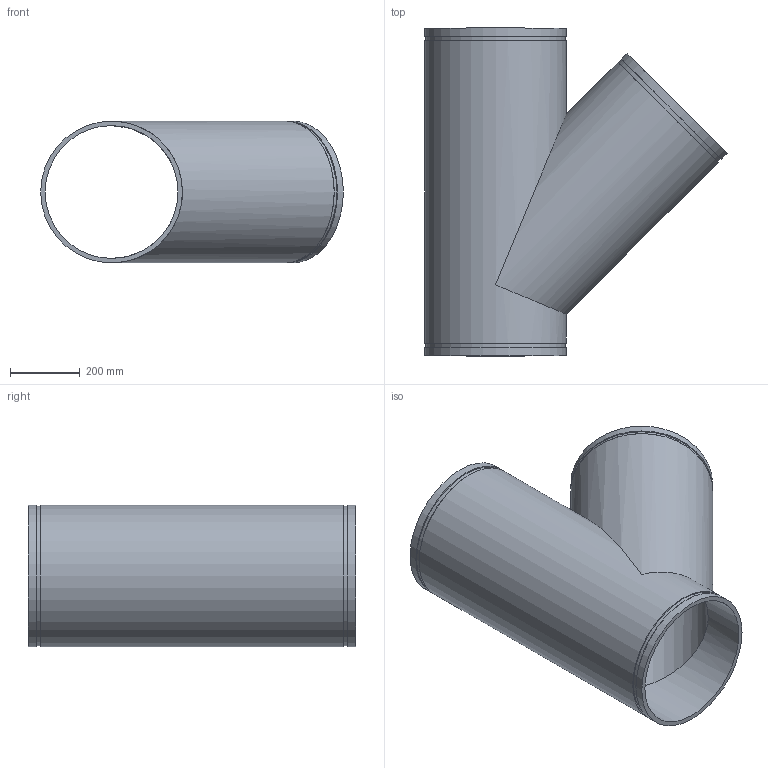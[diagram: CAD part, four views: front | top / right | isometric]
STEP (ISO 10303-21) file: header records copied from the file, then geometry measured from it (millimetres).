
FILE_DESCRIPTION(/* description */ ('VIC 45 DEG FABRICATED LATERAL No 30 SWS (OGS)','CAx-IF Rec.Pracs.---Representation and Presentation of Product Manufacturing Information (PMI)---4.0---2014-10-13'),/* implementation_level */ '2;1');
FILE_NAME(/* name */ 'C:\Users\kkamble\AppData\Roaming\Autodesk\ApplicationPlugins\Back Up\Victaulic_IPS_Lateral 45 Deg_No 30 SWS (OGS)\Victaulic_IPS_Lateral 45 Deg_No 30 SWS (OGS)_16 (400).stp',/* time_stamp */ '2020-09-16T22:21:19+06:00',/* author */ ('cgray'),/* organization */ ('Victaulic'),/* preprocessor_version */ 'ST-DEVELOPER v17.2',/* originating_system */ 'Autodesk Inventor 2019',/* authorisation */ '');
FILE_SCHEMA (('AP242_MANAGED_MODEL_BASED_3D_ENGINEERING_MIM_LF { 1 0 10303 442 1 1 4 }'));
Length unit declared in the file: inch
Products named in the file (1): 30 SWS-16.0
Bounding box: 867.74 x 939.8 x 406.4 mm (x, y, z)
Volume: 20628734.5 mm3; surface area: 3336789.2 mm2
Topology: 1 solids, 1 shells, 19 faces, 45 edges, 34 vertices
Faces by surface type: cylinder 10, plane 9
Full cylindrical faces by diameter (mm): 381 x2, 400.837 x3, 406.4 x5
Entity records: 748 total; most frequent: DIRECTION 145, CARTESIAN_POINT 116, ORIENTED_EDGE 90, AXIS2_PLACEMENT_3D 67, EDGE_CURVE 45, VERTEX_POINT 34, EDGE_LOOP 29, CIRCLE 27
